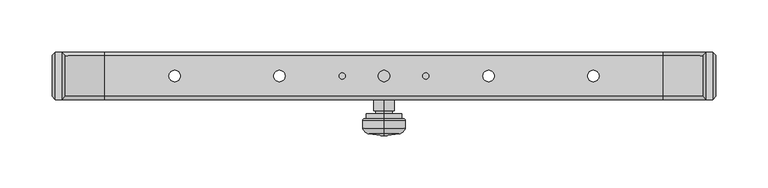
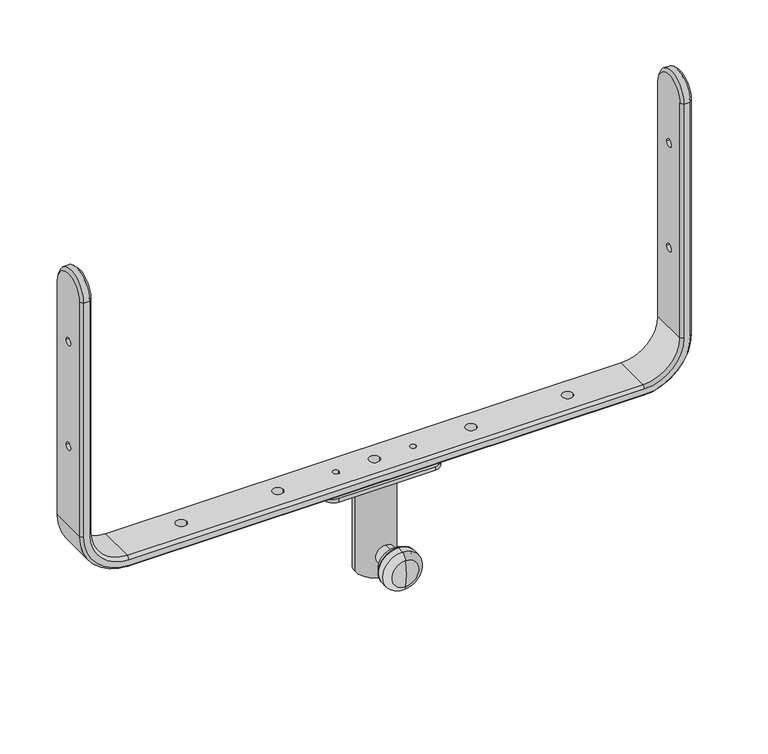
"""IFC4 building model written with IfcOpenShell, lengths in millimetres: proxy geometry, ePS12-HBRK600-SHM : ePS12-HBRK600-SHM."""

from ifc_helpers import new_model, si_unit, point, frame, frame_2d, origin, origin_with_axes, origin_2d, place, context, project, spatial, polyline, circle_curve, ellipse_curve, trimmed, segment, composite_curve, outline, extrude, source, transform, mapped, element, save
from ifc_brep_helpers import plane_surface, cylinder_surface, revolved_surface, advanced_brep


def generic_models_50664358(model_context):
    return source(origin(), model_context, "Body", "SolidModel", [
        advanced_brep(
        [(317.0, 19.5718345, 306.5012591), (317.0, -19.5718345, 306.5012591), (317.0, -19.5718345, 50.0), (317.0, 19.5718345, 50.0), (317.0, 4.0, 137.0012591), (317.0, -4.0, 137.0012591), (317.0, 4.0, 251.5012591), (317.0, -4.0, 251.5012591), (314.0, -22.5718345, 306.5012591), (314.0, -22.5718345, 50.0), (308.0, -22.5718345, 306.5012591), (308.0, -22.5718345, 50.0), (267.0, -22.5718345, 9.0), (-267.0, -22.5718345, 9.0), (-308.0, -22.5718345, 50.0), (-308.0, -22.5718345, 306.5012591), (-314.0, -22.5718345, 306.5012591), (-314.0, -22.5718345, 50.0), (-267.0, -22.5718345, 3.0), (267.0, -22.5718345, 3.0), (305.0, -19.5718345, 306.5012591), (305.0, -19.5718345, 50.0), (305.0, 19.5718345, 306.5012591), (305.0, 19.5718345, 50.0), (305.0, -4.0, 137.0012591), (305.0, 4.0, 137.0012591), (305.0, -4.0, 251.5012591), (305.0, 4.0, 251.5012591), (267.0, -19.5718345, 0.0), (267.0, 19.5718345, 0.0), (267.0, -19.5718345, 12.0), (267.0, 19.5718345, 12.0), (-267.0, -19.5718345, 0.0), (-267.0, 19.5718345, 0.0), (5.5, 0.0, 0.0), (-5.5, 0.0, 0.0), (-194.5, 0.0, 0.0), (-205.5, 0.0, 0.0), (-37.0, 0.0, 0.0), (-43.0, 0.0, 0.0), (-94.5, 0.0, 0.0), (-105.5, 0.0, 0.0), (194.5, 0.0, 0.0), (205.5, 0.0, 0.0), (37.0, 0.0, 0.0), (43.0, 0.0, 0.0), (94.5, 0.0, 0.0), (105.5, 0.0, 0.0), (-267.0, -19.5718345, 12.0), (-267.0, 19.5718345, 12.0), (-5.5, 0.0, 12.0), (5.5, 0.0, 12.0), (-205.5, 0.0, 12.0), (-194.5, 0.0, 12.0), (-43.0, 0.0, 12.0), (-37.0, 0.0, 12.0), (-105.5, 0.0, 12.0), (-94.5, 0.0, 12.0), (205.5, 0.0, 12.0), (194.5, 0.0, 12.0), (43.0, 0.0, 12.0), (37.0, 0.0, 12.0), (105.5, 0.0, 12.0), (94.5, 0.0, 12.0), (-317.0, -19.5718345, 50.0), (-317.0, 19.5718345, 50.0), (-305.0, -19.5718345, 50.0), (-305.0, 19.5718345, 50.0), (-317.0, -19.5718345, 306.5012591), (-317.0, 19.5718345, 306.5012591), (-317.0, -4.0, 137.0012591), (-317.0, 4.0, 137.0012591), (-317.0, -4.0, 251.5012591), (-317.0, 4.0, 251.5012591), (-305.0, -19.5718345, 306.5012591), (-305.0, 19.5718345, 306.5012591), (-305.0, 4.0, 137.0012591), (-305.0, -4.0, 137.0012591), (-305.0, 4.0, 251.5012591), (-305.0, -4.0, 251.5012591), (308.0, 22.5718345, 306.5012591), (308.0, 22.5718345, 50.0), (314.0, 22.5718345, 306.5012591), (314.0, 22.5718345, 50.0), (267.0, 22.5718345, 3.0), (-267.0, 22.5718345, 3.0), (-314.0, 22.5718345, 50.0), (-314.0, 22.5718345, 306.5012591), (-308.0, 22.5718345, 306.5012591), (-308.0, 22.5718345, 50.0), (-267.0, 22.5718345, 9.0), (267.0, 22.5718345, 9.0)],
        [
            (0, 1, circle_curve(frame((317.0, 0.0, 306.5012591), z_axis=(1.0, 0.0, 0.0), x_axis=(0.0, -1.0, 0.0)), 19.5718345)),
            (1, 2),
            (2, 3),
            (3, 0),
            (4, 5, circle_curve(frame((317.0, 0.0, 137.0012591), z_axis=(-1.0, 0.0, 0.0), x_axis=(0.0, 1.0, 0.0)), 4.0)),
            (5, 4, circle_curve(frame((317.0, 0.0, 137.0012591), z_axis=(-1.0, 0.0, 0.0), x_axis=(0.0, 1.0, 0.0)), 4.0)),
            (6, 7, circle_curve(frame((317.0, 0.0, 251.5012591), z_axis=(-1.0, 0.0, 0.0), x_axis=(0.0, 1.0, 0.0)), 4.0)),
            (7, 6, circle_curve(frame((317.0, 0.0, 251.5012591), z_axis=(-1.0, 0.0, 0.0), x_axis=(0.0, 1.0, 0.0)), 4.0)),
            (1, 8),
            (8, 9),
            (9, 2),
            (8, 10),
            (10, 11),
            (11, 12, circle_curve(frame((267.0, -22.5718345, 50.0), z_axis=(0.0, 1.0, 0.0), x_axis=(1.0, 0.0, 0.0)), 41.0)),
            (12, 13),
            (13, 14, circle_curve(frame((-267.0, -22.5718345, 50.0), z_axis=(0.0, 1.0, 0.0), x_axis=(0.0, 0.0, -1.0)), 41.0)),
            (14, 15),
            (15, 16),
            (16, 17),
            (17, 18, circle_curve(frame((-267.0, -22.5718345, 50.0), z_axis=(0.0, -1.0, 0.0), x_axis=(0.0, 0.0, -1.0)), 47.0)),
            (18, 19),
            (19, 9, circle_curve(frame((267.0, -22.5718345, 50.0), z_axis=(0.0, -1.0, 0.0), x_axis=(1.0, 0.0, 0.0)), 47.0)),
            (10, 20),
            (20, 21),
            (21, 11),
            (20, 22, circle_curve(frame((305.0, 0.0, 306.5012591), z_axis=(-1.0, 0.0, 0.0), x_axis=(0.0, -1.0, 0.0)), 19.5718345)),
            (22, 23),
            (23, 21),
            (24, 25, circle_curve(frame((305.0, 0.0, 137.0012591), z_axis=(1.0, 0.0, 0.0), x_axis=(0.0, 1.0, 0.0)), 4.0)),
            (25, 24, circle_curve(frame((305.0, 0.0, 137.0012591), z_axis=(1.0, 0.0, 0.0), x_axis=(0.0, 1.0, 0.0)), 4.0)),
            (26, 27, circle_curve(frame((305.0, 0.0, 251.5012591), z_axis=(1.0, 0.0, 0.0), x_axis=(0.0, 1.0, 0.0)), 4.0)),
            (27, 26, circle_curve(frame((305.0, 0.0, 251.5012591), z_axis=(1.0, 0.0, 0.0), x_axis=(0.0, 1.0, 0.0)), 4.0)),
            (2, 28, circle_curve(frame((267.0, -19.5718345, 50.0), z_axis=(0.0, 1.0, 0.0), x_axis=(1.0, 0.0, 0.0)), 50.0)),
            (28, 29),
            (29, 3, circle_curve(frame((267.0, 19.5718345, 50.0), z_axis=(0.0, -1.0, 0.0), x_axis=(1.0, 0.0, 0.0)), 50.0)),
            (19, 28),
            (21, 30, circle_curve(frame((267.0, -19.5718345, 50.0), z_axis=(0.0, 1.0, 0.0), x_axis=(1.0, 0.0, 0.0)), 38.0)),
            (30, 12),
            (23, 31, circle_curve(frame((267.0, 19.5718345, 50.0), z_axis=(0.0, 1.0, 0.0), x_axis=(1.0, 0.0, 0.0)), 38.0)),
            (31, 30),
            (28, 32),
            (32, 33),
            (33, 29),
            (34, 35, circle_curve(origin_with_axes(), 5.5)),
            (35, 34, circle_curve(origin_with_axes(), 5.5)),
            (36, 37, circle_curve(frame((-200.0, 0.0, 0.0), z_axis=(0.0, 0.0, 1.0), x_axis=(1.0, 0.0, 0.0)), 5.5)),
            (37, 36, circle_curve(frame((-200.0, 0.0, 0.0), z_axis=(0.0, 0.0, 1.0), x_axis=(1.0, 0.0, 0.0)), 5.5)),
            (38, 39, circle_curve(frame((-40.0, 0.0, 0.0), z_axis=(0.0, 0.0, 1.0), x_axis=(1.0, 0.0, 0.0)), 3.0)),
            (39, 38, circle_curve(frame((-40.0, 0.0, 0.0), z_axis=(0.0, 0.0, 1.0), x_axis=(1.0, 0.0, 0.0)), 3.0)),
            (40, 41, circle_curve(frame((-100.0, 0.0, 0.0), z_axis=(0.0, 0.0, 1.0), x_axis=(1.0, 0.0, 0.0)), 5.5)),
            (41, 40, circle_curve(frame((-100.0, 0.0, 0.0), z_axis=(0.0, 0.0, 1.0), x_axis=(1.0, 0.0, 0.0)), 5.5)),
            (42, 43, circle_curve(frame((200.0, 0.0, 0.0), z_axis=(0.0, 0.0, 1.0), x_axis=(-1.0, 0.0, 0.0)), 5.5)),
            (43, 42, circle_curve(frame((200.0, 0.0, 0.0), z_axis=(0.0, 0.0, 1.0), x_axis=(-1.0, 0.0, 0.0)), 5.5)),
            (44, 45, circle_curve(frame((40.0, 0.0, 0.0), z_axis=(0.0, 0.0, 1.0), x_axis=(-1.0, 0.0, 0.0)), 3.0)),
            (45, 44, circle_curve(frame((40.0, 0.0, 0.0), z_axis=(0.0, 0.0, 1.0), x_axis=(-1.0, 0.0, 0.0)), 3.0)),
            (46, 47, circle_curve(frame((100.0, 0.0, 0.0), z_axis=(0.0, 0.0, 1.0), x_axis=(-1.0, 0.0, 0.0)), 5.5)),
            (47, 46, circle_curve(frame((100.0, 0.0, 0.0), z_axis=(0.0, 0.0, 1.0), x_axis=(-1.0, 0.0, 0.0)), 5.5)),
            (18, 32),
            (30, 48),
            (48, 13),
            (31, 49),
            (49, 48),
            (50, 51, circle_curve(frame((0.0, 0.0, 12.0), z_axis=(0.0, 0.0, -1.0), x_axis=(1.0, 0.0, 0.0)), 5.5)),
            (51, 50, circle_curve(frame((0.0, 0.0, 12.0), z_axis=(0.0, 0.0, -1.0), x_axis=(1.0, 0.0, 0.0)), 5.5)),
            (52, 53, circle_curve(frame((-200.0, 0.0, 12.0), z_axis=(0.0, 0.0, -1.0), x_axis=(1.0, 0.0, 0.0)), 5.5)),
            (53, 52, circle_curve(frame((-200.0, 0.0, 12.0), z_axis=(0.0, 0.0, -1.0), x_axis=(1.0, 0.0, 0.0)), 5.5)),
            (54, 55, circle_curve(frame((-40.0, 0.0, 12.0), z_axis=(0.0, 0.0, -1.0), x_axis=(1.0, 0.0, 0.0)), 3.0)),
            (55, 54, circle_curve(frame((-40.0, 0.0, 12.0), z_axis=(0.0, 0.0, -1.0), x_axis=(1.0, 0.0, 0.0)), 3.0)),
            (56, 57, circle_curve(frame((-100.0, 0.0, 12.0), z_axis=(0.0, 0.0, -1.0), x_axis=(1.0, 0.0, 0.0)), 5.5)),
            (57, 56, circle_curve(frame((-100.0, 0.0, 12.0), z_axis=(0.0, 0.0, -1.0), x_axis=(1.0, 0.0, 0.0)), 5.5)),
            (58, 59, circle_curve(frame((200.0, 0.0, 12.0), z_axis=(0.0, 0.0, -1.0), x_axis=(-1.0, 0.0, 0.0)), 5.5)),
            (59, 58, circle_curve(frame((200.0, 0.0, 12.0), z_axis=(0.0, 0.0, -1.0), x_axis=(-1.0, 0.0, 0.0)), 5.5)),
            (60, 61, circle_curve(frame((40.0, 0.0, 12.0), z_axis=(0.0, 0.0, -1.0), x_axis=(-1.0, 0.0, 0.0)), 3.0)),
            (61, 60, circle_curve(frame((40.0, 0.0, 12.0), z_axis=(0.0, 0.0, -1.0), x_axis=(-1.0, 0.0, 0.0)), 3.0)),
            (62, 63, circle_curve(frame((100.0, 0.0, 12.0), z_axis=(0.0, 0.0, -1.0), x_axis=(-1.0, 0.0, 0.0)), 5.5)),
            (63, 62, circle_curve(frame((100.0, 0.0, 12.0), z_axis=(0.0, 0.0, -1.0), x_axis=(-1.0, 0.0, 0.0)), 5.5)),
            (32, 64, circle_curve(frame((-267.0, -19.5718345, 50.0), z_axis=(0.0, 1.0, 0.0), x_axis=(0.0, 0.0, -1.0)), 50.0)),
            (64, 65),
            (65, 33, circle_curve(frame((-267.0, 19.5718345, 50.0), z_axis=(0.0, -1.0, 0.0), x_axis=(0.0, 0.0, -1.0)), 50.0)),
            (17, 64),
            (48, 66, circle_curve(frame((-267.0, -19.5718345, 50.0), z_axis=(0.0, 1.0, 0.0), x_axis=(0.0, 0.0, -1.0)), 38.0)),
            (66, 14),
            (49, 67, circle_curve(frame((-267.0, 19.5718345, 50.0), z_axis=(0.0, 1.0, 0.0), x_axis=(0.0, 0.0, -1.0)), 38.0)),
            (67, 66),
            (64, 68),
            (68, 69, circle_curve(frame((-317.0, 0.0, 306.5012591), z_axis=(-1.0, 0.0, 0.0), x_axis=(0.0, -1.0, 0.0)), 19.5718345)),
            (69, 65),
            (70, 71, circle_curve(frame((-317.0, 0.0, 137.0012591), z_axis=(1.0, 0.0, 0.0), x_axis=(0.0, 1.0, 0.0)), 4.0)),
            (71, 70, circle_curve(frame((-317.0, 0.0, 137.0012591), z_axis=(1.0, 0.0, 0.0), x_axis=(0.0, 1.0, 0.0)), 4.0)),
            (72, 73, circle_curve(frame((-317.0, 0.0, 251.5012591), z_axis=(1.0, 0.0, 0.0), x_axis=(0.0, 1.0, 0.0)), 4.0)),
            (73, 72, circle_curve(frame((-317.0, 0.0, 251.5012591), z_axis=(1.0, 0.0, 0.0), x_axis=(0.0, 1.0, 0.0)), 4.0)),
            (16, 68),
            (66, 74),
            (74, 15),
            (67, 75),
            (75, 74, circle_curve(frame((-305.0, 0.0, 306.5012591), z_axis=(1.0, 0.0, 0.0), x_axis=(0.0, -1.0, 0.0)), 19.5718345)),
            (76, 77, circle_curve(frame((-305.0, 0.0, 137.0012591), z_axis=(-1.0, 0.0, 0.0), x_axis=(0.0, 1.0, 0.0)), 4.0)),
            (77, 76, circle_curve(frame((-305.0, 0.0, 137.0012591), z_axis=(-1.0, 0.0, 0.0), x_axis=(0.0, 1.0, 0.0)), 4.0)),
            (78, 79, circle_curve(frame((-305.0, 0.0, 251.5012591), z_axis=(-1.0, 0.0, 0.0), x_axis=(0.0, 1.0, 0.0)), 4.0)),
            (79, 78, circle_curve(frame((-305.0, 0.0, 251.5012591), z_axis=(-1.0, 0.0, 0.0), x_axis=(0.0, 1.0, 0.0)), 4.0)),
            (22, 80),
            (80, 81),
            (81, 23),
            (80, 82),
            (82, 83),
            (83, 84, circle_curve(frame((267.0, 22.5718345, 50.0), z_axis=(0.0, 1.0, 0.0), x_axis=(1.0, 0.0, 0.0)), 47.0)),
            (84, 85),
            (85, 86, circle_curve(frame((-267.0, 22.5718345, 50.0), z_axis=(0.0, 1.0, 0.0), x_axis=(0.0, 0.0, -1.0)), 47.0)),
            (86, 87),
            (87, 88),
            (88, 89),
            (89, 90, circle_curve(frame((-267.0, 22.5718345, 50.0), z_axis=(0.0, -1.0, 0.0), x_axis=(0.0, 0.0, -1.0)), 41.0)),
            (90, 91),
            (91, 81, circle_curve(frame((267.0, 22.5718345, 50.0), z_axis=(0.0, -1.0, 0.0), x_axis=(1.0, 0.0, 0.0)), 41.0)),
            (3, 83),
            (82, 0),
            (91, 31),
            (29, 84),
            (90, 49),
            (33, 85),
            (89, 67),
            (65, 86),
            (88, 75),
            (69, 87),
            (87, 16, circle_curve(frame((-314.0, 0.0, 306.5012591), z_axis=(1.0, 0.0, 0.0), x_axis=(0.0, -1.0, 0.0)), 22.5718345)),
            (15, 88, circle_curve(frame((-308.0, 0.0, 306.5012591), z_axis=(-1.0, 0.0, 0.0), x_axis=(0.0, -1.0, 0.0)), 22.5718345)),
            (80, 10, circle_curve(frame((308.0, 0.0, 306.5012591), z_axis=(1.0, 0.0, 0.0), x_axis=(0.0, -1.0, 0.0)), 22.5718345)),
            (8, 82, circle_curve(frame((314.0, 0.0, 306.5012591), z_axis=(-1.0, 0.0, 0.0), x_axis=(0.0, -1.0, 0.0)), 22.5718345)),
            (51, 34),
            (35, 50),
            (53, 36),
            (37, 52),
            (55, 38),
            (39, 54),
            (25, 4),
            (5, 24),
            (71, 76),
            (77, 70),
            (57, 40),
            (41, 56),
            (59, 42),
            (43, 58),
            (61, 44),
            (45, 60),
            (63, 46),
            (47, 62),
            (27, 6),
            (7, 26),
            (73, 78),
            (79, 72),
        ],
        [
            plane_surface(frame((317.0, 19.5718345, 306.5012591), z_axis=(1.0, 0.0, 0.0), x_axis=(0.0, 0.0, -1.0))),
            plane_surface(frame((317.0, -19.5718345, 306.5012591), z_axis=(0.707106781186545, -0.70710678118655, 0.0), x_axis=(0.0, 0.0, -1.0))),
            plane_surface(frame((314.0, -22.5718345, 306.5012591), z_axis=(0.0, -1.0, 0.0), x_axis=(0.0, 0.0, -1.0))),
            plane_surface(frame((308.0, -22.5718345, 306.5012591), z_axis=(-0.7071067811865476, -0.7071067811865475, 0.0), x_axis=(0.0, 0.0, -1.0))),
            plane_surface(frame((305.0, -19.5718345, 306.5012591), z_axis=(-1.0, 0.0, 0.0), x_axis=(0.0, 0.0, -1.0))),
            cylinder_surface(frame((267.0, 0.0, 50.0), z_axis=(0.0, -1.0, 0.0), x_axis=(1.0, 0.0, 0.0)), 50.0),
            revolved_surface(polyline([(317.0, -19.5718345, 50.0), (314.0, -22.5718345, 50.0)]), (267.0, 0.0, 50.0), (0.0, -1.0, 0.0)),
            revolved_surface(polyline([(308.0, -22.5718345, 50.0), (305.0, -19.5718345, 50.0)]), (267.0, 0.0, 50.0), (0.0, -1.0, 0.0)),
            revolved_surface(polyline([(305.0, -19.5718345, 50.0), (305.0, 19.5718345, 50.0)]), (267.0, 0.0, 50.0), (0.0, -1.0, 0.0)),
            plane_surface(frame((267.0, 19.5718345, 0.0), z_axis=(0.0, 0.0, -1.0), x_axis=(-1.0, 0.0, 0.0))),
            plane_surface(frame((267.0, -19.5718345, 0.0), z_axis=(0.0, -0.7071067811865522, -0.7071067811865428), x_axis=(-1.0, 0.0, 0.0))),
            plane_surface(frame((267.0, -22.5718345, 9.0), z_axis=(0.0, -0.7071067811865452, 0.7071067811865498), x_axis=(-1.0, 0.0, 0.0))),
            plane_surface(frame((267.0, -19.5718345, 12.0), z_axis=(0.0, 0.0, 1.0), x_axis=(-1.0, 0.0, 0.0))),
            cylinder_surface(frame((-267.0, 0.0, 50.0), z_axis=(0.0, -1.0, 0.0), x_axis=(0.0, 0.0, -1.0)), 50.0),
            revolved_surface(polyline([(-267.0, -19.5718345, 0.0), (-267.0, -22.5718345, 3.0)]), (-267.0, 0.0, 50.0), (0.0, -1.0, 0.0)),
            revolved_surface(polyline([(-267.0, -22.5718345, 9.0), (-267.0, -19.5718345, 12.0)]), (-267.0, 0.0, 50.0), (0.0, -1.0, 0.0)),
            revolved_surface(polyline([(-267.0, -19.5718345, 12.0), (-267.0, 19.5718345, 12.0)]), (-267.0, 0.0, 50.0), (0.0, -1.0, 0.0)),
            plane_surface(frame((-317.0, 19.5718345, 50.0), z_axis=(-1.0, 0.0, 0.0), x_axis=(0.0, 0.0, 1.0))),
            plane_surface(frame((-317.0, -19.5718345, 50.0), z_axis=(-0.7071067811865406, -0.7071067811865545, 0.0), x_axis=(0.0, 0.0, 1.0))),
            plane_surface(frame((-308.0, -22.5718345, 50.0), z_axis=(0.707106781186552, -0.707106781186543, 0.0), x_axis=(0.0, 0.0, 1.0))),
            plane_surface(frame((-305.0, -19.5718345, 50.0), z_axis=(1.0, 0.0, 0.0), x_axis=(0.0, 0.0, 1.0))),
            plane_surface(frame((305.0, 19.5718345, 306.5012591), z_axis=(-0.707106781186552, 0.707106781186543, 0.0), x_axis=(0.0, 0.0, -1.0))),
            plane_surface(frame((308.0, 22.5718345, 306.5012591), z_axis=(0.0, 1.0, 0.0), x_axis=(0.0, 0.0, -1.0))),
            plane_surface(frame((314.0, 22.5718345, 306.5012591), z_axis=(0.7071067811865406, 0.7071067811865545, 0.0), x_axis=(0.0, 0.0, -1.0))),
            revolved_surface(polyline([(305.0, 19.5718345, 50.0), (308.0, 22.5718345, 50.0)]), (267.0, 0.0, 50.0), (0.0, -1.0, 0.0)),
            revolved_surface(polyline([(314.0, 22.5718345, 50.0), (317.0, 19.5718345, 50.0)]), (267.0, 0.0, 50.0), (0.0, -1.0, 0.0)),
            plane_surface(frame((267.0, 19.5718345, 12.0), z_axis=(0.0, 0.7071067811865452, 0.7071067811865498), x_axis=(-1.0, 0.0, 0.0))),
            plane_surface(frame((267.0, 22.5718345, 3.0), z_axis=(0.0, 0.7071067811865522, -0.7071067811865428), x_axis=(-1.0, 0.0, 0.0))),
            revolved_surface(polyline([(-267.0, 19.5718345, 12.0), (-267.0, 22.5718345, 9.0)]), (-267.0, 0.0, 50.0), (0.0, -1.0, 0.0)),
            revolved_surface(polyline([(-267.0, 22.5718345, 3.0), (-267.0, 19.5718345, 0.0)]), (-267.0, 0.0, 50.0), (0.0, -1.0, 0.0)),
            plane_surface(frame((-305.0, 19.5718345, 50.0), z_axis=(0.7071067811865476, 0.7071067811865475, 0.0), x_axis=(0.0, 0.0, 1.0))),
            plane_surface(frame((-314.0, 22.5718345, 50.0), z_axis=(-0.707106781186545, 0.70710678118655, 0.0), x_axis=(0.0, 0.0, 1.0))),
            cylinder_surface(frame((1882.5, 0.0, 306.5012591), z_axis=(1.0, 0.0, 0.0), x_axis=(0.0, -1.0, 0.0)), 22.5718345),
            revolved_surface(polyline([(-308.0, -22.5718345, 306.5012591), (-305.0, -19.5718345, 306.5012591)]), (1882.5, 0.0, 306.5012591), (1.0, 0.0, 0.0)),
            revolved_surface(polyline([(-317.0, -19.5718345, 306.5012591), (-314.0, -22.5718345, 306.5012591)]), (1882.5, 0.0, 306.5012591), (1.0, 0.0, 0.0)),
            cylinder_surface(frame((-1882.5, 0.0, 306.5012591), z_axis=(1.0, 0.0, 0.0), x_axis=(0.0, -1.0, 0.0)), 22.5718345),
            revolved_surface(polyline([(305.0, -19.5718345, 306.5012591), (308.0, -22.5718345, 306.5012591)]), (-1882.5, 0.0, 306.5012591), (1.0, 0.0, 0.0)),
            revolved_surface(polyline([(314.0, -22.5718345, 306.5012591), (317.0, -19.5718345, 306.5012591)]), (-1882.5, 0.0, 306.5012591), (1.0, 0.0, 0.0)),
            revolved_surface(polyline([(5.5, 0.0, 0.0), (5.5, 0.0, 12.0)]), (0.0, 0.0, 20.0), (0.0, 0.0, -1.0)),
            revolved_surface(polyline([(-194.5, 0.0, 0.0), (-194.5, 0.0, 12.0)]), (-200.0, 0.0, 0.0), (0.0, 0.0, -1.0)),
            revolved_surface(polyline([(-37.0, 0.0, 0.0), (-37.0, 0.0, 12.0)]), (-40.0, 0.0, 0.0), (0.0, 0.0, -1.0)),
            revolved_surface(polyline([(317.0, 4.0, 137.0012591), (305.0, 4.0, 137.0012591)]), (-317.0, 0.0, 137.0012591), (1.0, 0.0, 0.0)),
            revolved_surface(polyline([(-305.0, 4.0, 137.0012591), (-317.0, 4.0, 137.0012591)]), (-317.0, 0.0, 137.0012591), (1.0, 0.0, 0.0)),
            revolved_surface(polyline([(-94.5, 0.0, 0.0), (-94.5, 0.0, 12.0)]), (-100.0, 0.0, 0.0), (0.0, 0.0, -1.0)),
            revolved_surface(polyline([(194.5, 0.0, 0.0), (194.5, 0.0, 12.0)]), (200.0, 0.0, 0.0), (0.0, 0.0, -1.0)),
            revolved_surface(polyline([(37.0, 0.0, 0.0), (37.0, 0.0, 12.0)]), (40.0, 0.0, 0.0), (0.0, 0.0, -1.0)),
            revolved_surface(polyline([(94.5, 0.0, 0.0), (94.5, 0.0, 12.0)]), (100.0, 0.0, 0.0), (0.0, 0.0, -1.0)),
            revolved_surface(polyline([(317.0, 4.0, 251.5012591), (305.0, 4.0, 251.5012591)]), (0.0, 0.0, 251.5012591), (1.0, 0.0, 0.0)),
            revolved_surface(polyline([(-305.0, 4.0, 251.5012591), (-317.0, 4.0, 251.5012591)]), (0.0, 0.0, 251.5012591), (1.0, 0.0, 0.0)),
        ],
        [
            (0, [[1, 2, 3, 4], [5, 6], [7, 8]]),
            (1, [[9, 10, 11, -2]]),
            (2, [[12, 13, 14, 15, 16, 17, 18, 19, 20, 21, 22, -10]]),
            (3, [[23, 24, 25, -13]]),
            (4, [[26, 27, 28, -24], [29, 30], [31, 32]]),
            (5, [[33, 34, 35, -3]]),
            (6, [[-22, 36, -33, -11]]),
            (7, [[-25, 37, 38, -14]]),
            (8, [[39, 40, -37, -28]]),
            (9, [[41, 42, 43, -34], [44, 45], [46, 47], [48, 49], [50, 51], [52, 53], [54, 55], [56, 57]]),
            (10, [[58, -41, -36, -21]]),
            (11, [[-38, 59, 60, -15]]),
            (12, [[61, 62, -59, -40], [63, 64], [65, 66], [67, 68], [69, 70], [71, 72], [73, 74], [75, 76]]),
            (13, [[77, 78, 79, -42]]),
            (14, [[80, -77, -58, -20]]),
            (15, [[-60, 81, 82, -16]]),
            (16, [[83, 84, -81, -62]]),
            (17, [[85, 86, 87, -78], [88, 89], [90, 91]]),
            (18, [[92, -85, -80, -19]]),
            (19, [[-82, 93, 94, -17]]),
            (20, [[95, 96, -93, -84], [97, 98], [99, 100]]),
            (21, [[101, 102, 103, -27]]),
            (22, [[104, 105, 106, 107, 108, 109, 110, 111, 112, 113, 114, -102]]),
            (23, [[115, -105, 116, -4]]),
            (24, [[-103, -114, 117, -39]]),
            (25, [[118, -106, -115, -35]]),
            (26, [[-117, -113, 119, -61]]),
            (27, [[120, -107, -118, -43]]),
            (28, [[-119, -112, 121, -83]]),
            (29, [[122, -108, -120, -79]]),
            (30, [[-121, -111, 123, -95]]),
            (31, [[124, -109, -122, -87]]),
            (32, [[-110, 125, -18, 126]]),
            (33, [[-94, -96, -123, -126]]),
            (34, [[-124, -86, -92, -125]]),
            (35, [[-104, 127, -12, 128]]),
            (36, [[-101, -26, -23, -127]]),
            (37, [[-9, -1, -116, -128]]),
            (38, [[-64, 129, -45, 130]]),
            (38, [[-44, -129, -63, -130]]),
            (39, [[-66, 131, -47, 132]]),
            (39, [[-46, -131, -65, -132]]),
            (40, [[-68, 133, -49, 134]]),
            (40, [[-48, -133, -67, -134]]),
            (41, [[-30, 135, -6, 136]]),
            (42, [[-89, 137, -98, 138]]),
            (41, [[-5, -135, -29, -136]]),
            (42, [[-97, -137, -88, -138]]),
            (43, [[-70, 139, -51, 140]]),
            (43, [[-50, -139, -69, -140]]),
            (44, [[-72, 141, -53, 142]]),
            (44, [[-52, -141, -71, -142]]),
            (45, [[-74, 143, -55, 144]]),
            (45, [[-54, -143, -73, -144]]),
            (46, [[-76, 145, -57, 146]]),
            (46, [[-56, -145, -75, -146]]),
            (47, [[-32, 147, -8, 148]]),
            (48, [[-91, 149, -100, 150]]),
            (47, [[-7, -147, -31, -148]]),
            (48, [[-99, -149, -90, -150]]),
        ],
    ),
        advanced_brep(
        [(0.0, -33.0, -90.0), (0.0, -33.0, -70.0), (0.0, -20.0, -70.0), (0.0, -20.0, -90.0), (0.0, -33.0, -88.0), (0.0, -33.0, -72.0), (0.0, -36.0, -88.0), (0.0, -36.0, -72.0), (0.0, -36.0, -97.0), (0.0, -36.0, -63.0), (0.0, -41.0, -97.0), (0.0, -41.0, -63.0), (0.0, -41.0, -99.0134125), (0.0, -41.0, -60.9865875), (0.0, -42.4865875, -100.5), (0.0, -42.4865875, -59.5), (0.0, -50.0, -100.5), (0.0, -50.0, -59.5), (0.0, -55.3756411, -94.3160324), (0.0, -55.3756411, -65.6839676), (0.0, -56.9925385, -80.0), (0.0, -20.0, -80.0)],
        [
            (0, 1, circle_curve(frame((0.0, -33.0, -80.0), z_axis=(0.0, 1.0, 0.0), x_axis=(0.0, 0.0, 1.0)), 10.0)),
            (1, 2),
            (2, 3, circle_curve(frame((0.0, -20.0, -80.0), z_axis=(0.0, -1.0, 0.0), x_axis=(0.0, 0.0, 1.0)), 10.0)),
            (3, 0),
            (1, 0, circle_curve(frame((0.0, -33.0, -80.0), z_axis=(0.0, 1.0, 0.0), x_axis=(0.0, 0.0, 1.0)), 10.0)),
            (3, 2, circle_curve(frame((0.0, -20.0, -80.0), z_axis=(0.0, -1.0, 0.0), x_axis=(0.0, 0.0, 1.0)), 10.0)),
            (4, 5, circle_curve(frame((0.0, -33.0, -80.0), z_axis=(0.0, 1.0, 0.0), x_axis=(0.0, 0.0, 1.0)), 8.0)),
            (5, 1),
            (0, 4),
            (5, 4, circle_curve(frame((0.0, -33.0, -80.0), z_axis=(0.0, 1.0, 0.0), x_axis=(0.0, 0.0, 1.0)), 8.0)),
            (6, 7, circle_curve(frame((0.0, -36.0, -80.0), z_axis=(0.0, 1.0, 0.0), x_axis=(0.0, 0.0, 1.0)), 8.0)),
            (7, 5),
            (4, 6),
            (7, 6, circle_curve(frame((0.0, -36.0, -80.0), z_axis=(0.0, 1.0, 0.0), x_axis=(0.0, 0.0, 1.0)), 8.0)),
            (8, 9, circle_curve(frame((0.0, -36.0, -80.0), z_axis=(0.0, 1.0, 0.0), x_axis=(0.0, 0.0, 1.0)), 17.0)),
            (9, 7),
            (6, 8),
            (9, 8, circle_curve(frame((0.0, -36.0, -80.0), z_axis=(0.0, 1.0, 0.0), x_axis=(0.0, 0.0, 1.0)), 17.0)),
            (10, 11, circle_curve(frame((0.0, -41.0, -80.0), z_axis=(0.0, 1.0, 0.0), x_axis=(0.0, 0.0, 1.0)), 17.0)),
            (11, 9),
            (8, 10),
            (11, 10, circle_curve(frame((0.0, -41.0, -80.0), z_axis=(0.0, 1.0, 0.0), x_axis=(0.0, 0.0, 1.0)), 17.0)),
            (12, 13, circle_curve(frame((0.0, -41.0, -80.0), z_axis=(0.0, 1.0, 0.0), x_axis=(0.0, 0.0, 1.0)), 19.0134125)),
            (13, 11),
            (10, 12),
            (13, 12, circle_curve(frame((0.0, -41.0, -80.0), z_axis=(0.0, 1.0, 0.0), x_axis=(0.0, 0.0, 1.0)), 19.0134125)),
            (14, 15, circle_curve(frame((0.0, -42.4865875, -80.0), z_axis=(0.0, 1.0, 0.0), x_axis=(0.0, 0.0, 1.0)), 20.5)),
            (15, 13, circle_curve(frame((0.0, -42.4865875, -60.9865875), z_axis=(-1.0, 0.0, 0.0), x_axis=(0.0, 1.0, 0.0)), 1.4865875)),
            (12, 14, circle_curve(frame((0.0, -42.4865875, -99.0134125), z_axis=(-1.0, 0.0, 0.0), x_axis=(0.0, 1.0, 0.0)), 1.4865875)),
            (15, 14, circle_curve(frame((0.0, -42.4865875, -80.0), z_axis=(0.0, 1.0, 0.0), x_axis=(0.0, 0.0, 1.0)), 20.5)),
            (16, 17, circle_curve(frame((0.0, -50.0, -80.0), z_axis=(0.0, 1.0, 0.0), x_axis=(0.0, 0.0, 1.0)), 20.5)),
            (17, 15),
            (14, 16),
            (17, 16, circle_curve(frame((0.0, -50.0, -80.0), z_axis=(0.0, 1.0, 0.0), x_axis=(0.0, 0.0, 1.0)), 20.5)),
            (18, 19, circle_curve(frame((0.0, -55.3756411, -80.0), z_axis=(0.0, 1.0, 0.0), x_axis=(0.0, 0.0, 1.0)), 14.3160324)),
            (19, 17, circle_curve(frame((0.0, -47.4239637, -67.1677848), z_axis=(-1.0, 0.0, 0.0), x_axis=(0.0, 1.0, 0.0)), 8.088936)),
            (16, 18, circle_curve(frame((0.0, -47.4239637, -92.8322152), z_axis=(-1.0, 0.0, 0.0), x_axis=(0.0, 1.0, 0.0)), 8.088936)),
            (19, 18, circle_curve(frame((0.0, -55.3756411, -80.0), z_axis=(0.0, 1.0, 0.0), x_axis=(0.0, 0.0, 1.0)), 14.3160324)),
            (20, 19, circle_curve(frame((0.0, 43.0388316, -84.0485305), z_axis=(-1.0, 0.0, 0.0), x_axis=(0.0, 1.0, 0.0)), 100.1132638)),
            (18, 20, circle_curve(frame((0.0, 43.0388316, -75.9514695), z_axis=(-1.0, 0.0, 0.0), x_axis=(0.0, 1.0, 0.0)), 100.1132638)),
            (2, 21),
            (21, 3),
        ],
        [
            cylinder_surface(frame((0.0, -66.5618796, -80.0), z_axis=(0.0, -1.0, 0.0), x_axis=(0.0, 0.0, 1.0)), 10.0),
            plane_surface(frame((0.0, -33.0, -80.0), z_axis=(0.0, -1.0, 0.0), x_axis=(0.0, 0.0, 1.0))),
            cylinder_surface(frame((0.0, -66.5618796, -80.0), z_axis=(0.0, -1.0, 0.0), x_axis=(0.0, 0.0, 1.0)), 8.0),
            plane_surface(frame((0.0, -36.0, -80.0), z_axis=(0.0, 1.0, 0.0), x_axis=(0.0, 0.0, 1.0))),
            cylinder_surface(frame((0.0, -66.5618796, -80.0), z_axis=(0.0, -1.0, 0.0), x_axis=(0.0, 0.0, 1.0)), 17.0),
            plane_surface(frame((0.0, -41.0, -80.0), z_axis=(0.0, 1.0, 0.0), x_axis=(0.0, 0.0, 1.0))),
            revolved_surface(trimmed(ellipse_curve(frame((0.0, -42.4865875, -60.9865875), z_axis=(1.0, 0.0, 0.0), x_axis=(0.0, 1.0, 0.0)), 1.4865875, 1.4865875), [point((0.0, -41.0, -60.9865875))], [point((0.0, -42.4865875, -59.5))], True, "CARTESIAN"), (0.0, -66.5618796, -80.0), (0.0, -1.0, 0.0)),
            cylinder_surface(frame((0.0, -66.5618796, -80.0), z_axis=(0.0, -1.0, 0.0), x_axis=(0.0, 0.0, 1.0)), 20.5),
            revolved_surface(trimmed(ellipse_curve(frame((0.0, -47.4239637, -67.1677848), z_axis=(1.0, 0.0, 0.0), x_axis=(0.0, 1.0, 0.0)), 8.088936, 8.088936), [point((0.0, -50.0, -59.5))], [point((0.0, -55.3756411, -65.6839676))], True, "CARTESIAN"), (0.0, -66.5618796, -80.0), (0.0, -1.0, 0.0)),
            revolved_surface(trimmed(ellipse_curve(frame((0.0, 43.0388316, -84.0485305), z_axis=(1.0, 0.0, 0.0), x_axis=(0.0, 1.0, 0.0)), 100.1132638, 100.1132638), [point((0.0, -55.3756411, -65.6839676))], [point((0.0, -56.9925385, -80.0))], True, "CARTESIAN"), (0.0, -66.5618796, -80.0), (0.0, -1.0, 0.0)),
            plane_surface(frame((0.0, -20.0, -80.0), z_axis=(0.0, 1.0, 0.0), x_axis=(0.0, 0.0, 1.0))),
        ],
        [
            (0, [[1, 2, 3, 4]]),
            (0, [[5, -4, 6, -2]]),
            (1, [[7, 8, -1, 9]]),
            (1, [[10, -9, -5, -8]]),
            (2, [[11, 12, -7, 13]]),
            (2, [[14, -13, -10, -12]]),
            (3, [[15, 16, -11, 17]]),
            (3, [[18, -17, -14, -16]]),
            (4, [[19, 20, -15, 21]]),
            (4, [[22, -21, -18, -20]]),
            (5, [[23, 24, -19, 25]]),
            (5, [[26, -25, -22, -24]]),
            (6, [[27, 28, -23, 29]]),
            (6, [[30, -29, -26, -28]]),
            (7, [[31, 32, -27, 33]]),
            (7, [[34, -33, -30, -32]]),
            (8, [[35, 36, -31, 37]]),
            (8, [[38, -37, -34, -36]]),
            (9, [[39, -35, 40]]),
            (9, [[-40, -38, -39]]),
            (10, [[-3, 41, 42]]),
            (10, [[-6, -42, -41]]),
        ],
    ),
        extrude(outline(composite_curve([segment(trimmed(circle_curve(origin_2d(), 20.0), [point((-20.0, 0.0))], [point((20.0, 0.0))], False, "CARTESIAN"), True, "CONTINUOUS"), segment(trimmed(circle_curve(origin_2d(), 20.0), [point((20.0, 0.0))], [point((-20.0, 0.0))], False, "CARTESIAN"), True, "CONTINUOUS")], self_intersect=False), holes=[composite_curve([segment(trimmed(circle_curve(origin_2d(), 18.0448116), [point((-18.0448116, 0.0))], [point((18.0448116, 0.0))], True, "CARTESIAN"), True, "CONTINUOUS"), segment(trimmed(circle_curve(origin_2d(), 18.0448116), [point((18.0448116, 0.0))], [point((-18.0448116, 0.0))], True, "CARTESIAN"), True, "CONTINUOUS")], self_intersect=False)]), frame((0.0, 0.0, -104.0), z_axis=(0.0, 0.0, 1.0), x_axis=(1.0, 0.0, 0.0)), (0.0, 0.0, 1.0), 100.0),
        extrude(outline(composite_curve([segment(trimmed(circle_curve(frame_2d((-40.0, 0.0)), 6.0), [point((-46.0, 0.0))], [point((-34.0, 0.0))], False, "CARTESIAN"), True, "CONTINUOUS"), segment(trimmed(circle_curve(frame_2d((-40.0, 0.0)), 6.0), [point((-34.0, 0.0))], [point((-46.0, 0.0))], False, "CARTESIAN"), True, "CONTINUOUS")], self_intersect=False)), frame((0.0, 0.0, -8.0), z_axis=(0.0, 0.0, 1.0), x_axis=(1.0, 0.0, 0.0)), (0.0, 0.0, 1.0), 4.0),
        extrude(outline(composite_curve([segment(trimmed(circle_curve(frame_2d((40.0, 0.0)), 6.0), [point((46.0, 0.0))], [point((34.0, 0.0))], False, "CARTESIAN"), True, "CONTINUOUS"), segment(trimmed(circle_curve(frame_2d((40.0, 0.0)), 6.0), [point((34.0, 0.0))], [point((46.0, 0.0))], False, "CARTESIAN"), True, "CONTINUOUS")], self_intersect=False)), frame((0.0, 0.0, -8.0), z_axis=(0.0, 0.0, 1.0), x_axis=(1.0, 0.0, 0.0)), (0.0, 0.0, 1.0), 4.0),
        extrude(outline(composite_curve([segment(trimmed(circle_curve(frame_2d((50.0, 12.5)), 10.0), [point((50.0, 22.5))], [point((60.0, 12.5))], False, "CARTESIAN"), True, "CONTINUOUS"), segment(polyline([(60.0, 12.5), (60.0, -12.5)]), True, "CONTINUOUS"), segment(trimmed(circle_curve(frame_2d((50.0, -12.5)), 10.0), [point((60.0, -12.5))], [point((50.0, -22.5))], False, "CARTESIAN"), True, "CONTINUOUS"), segment(polyline([(50.0, -22.5), (-50.0, -22.5)]), True, "CONTINUOUS"), segment(trimmed(circle_curve(frame_2d((-50.0, -12.5)), 10.0), [point((-50.0, -22.5))], [point((-60.0, -12.5))], False, "CARTESIAN"), True, "CONTINUOUS"), segment(polyline([(-60.0, -12.5), (-60.0, 12.5)]), True, "CONTINUOUS"), segment(trimmed(circle_curve(frame_2d((-50.0, 12.5)), 10.0), [point((-60.0, 12.5))], [point((-50.0, 22.5))], False, "CARTESIAN"), True, "CONTINUOUS"), segment(polyline([(-50.0, 22.5), (50.0, 22.5)]), True, "CONTINUOUS")], self_intersect=False), holes=[composite_curve([segment(trimmed(circle_curve(frame_2d((-40.0, 0.0)), 3.0), [point((-43.0, 0.0))], [point((-37.0, 0.0))], True, "CARTESIAN"), True, "CONTINUOUS"), segment(trimmed(circle_curve(frame_2d((-40.0, 0.0)), 3.0), [point((-37.0, 0.0))], [point((-43.0, 0.0))], True, "CARTESIAN"), True, "CONTINUOUS")], self_intersect=False), composite_curve([segment(trimmed(circle_curve(frame_2d((40.0, 0.0)), 3.0), [point((43.0, 0.0))], [point((37.0, 0.0))], True, "CARTESIAN"), True, "CONTINUOUS"), segment(trimmed(circle_curve(frame_2d((40.0, 0.0)), 3.0), [point((37.0, 0.0))], [point((43.0, 0.0))], True, "CARTESIAN"), True, "CONTINUOUS")], self_intersect=False)]), frame((0.0, 0.0, -4.0), z_axis=(0.0, 0.0, 1.0), x_axis=(1.0, 0.0, 0.0)), (0.0, 0.0, 1.0), 4.0),
    ])


if __name__ == "__main__":
    model = new_model("IFC4")
    model_context = context("Model", 3, world=origin())
    ifc_project = project(units=[si_unit("LENGTHUNIT", "METRE", prefix="MILLI")], contexts=[model_context])
    site = spatial("IfcSite", under=ifc_project)
    building = spatial("IfcBuilding", under=site)
    placement = place(None, origin())
    generic_models_shape = generic_models_50664358(model_context)
    element("IfcBuildingElementProxy", 1, Name="ePS12-HBRK600-SHM : ePS12-HBRK600-SHM", ObjectType="ePS12-HBRK600-SHM : ePS12-HBRK600-SHM", at=placement, inside=building, context=model_context, shape_type="MappedRepresentation", body=[
        mapped(generic_models_shape, transform((0.0, 0.0, 0.0), x_axis=(1.0, 0.0, 0.0), y_axis=(0.0, 1.0, 0.0), z_axis=(0.0, 0.0, 1.0))),
    ])
    save(model, "model.ifc")
